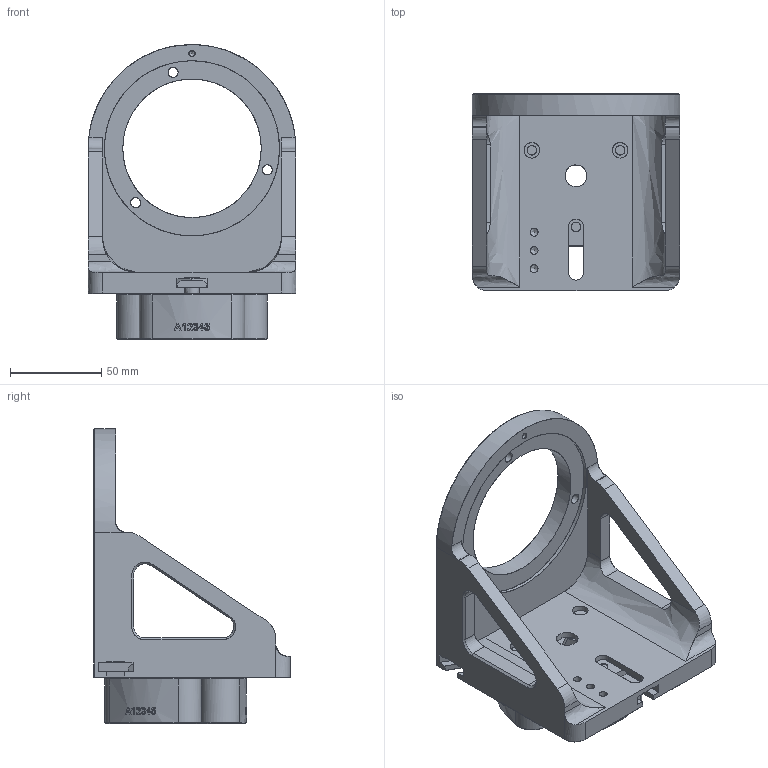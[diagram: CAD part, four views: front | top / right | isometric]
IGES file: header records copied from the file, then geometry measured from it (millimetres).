
Global section: file name: Y:\Transfer folder - cleared every Monday\DA\LA-9920-0700-01-B  XR20-W 90 DEGREE BRACKET KIT\A-9920-0700-01-B  XR20-W 90 DEGREE BRACKET KIT.igs; native system: NX V7.5; preprocessor: SIEMENS PLM Software NX 7.5; date: 20160226.093929; units: millimetre
Bounding box: 114 x 108 x 162 mm (x, y, z)
Surface area: 94260.8 mm2 (no closed solid volume)
Topology: 0 solids, 0 shells, 375 faces, 3259 edges, 3144 vertices
Faces by surface type: bspline 375
